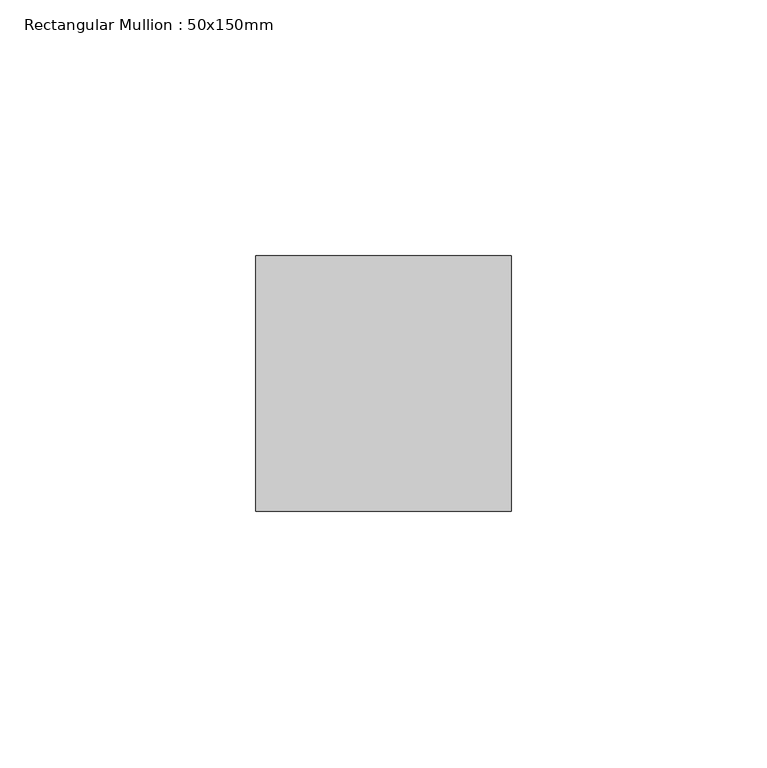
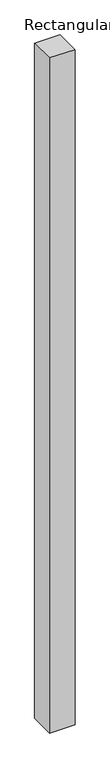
"""IFC4 building model written with IfcOpenShell, lengths in millimetres: member geometry, Rectangular Mullion : 50x150mm."""

from ifc_helpers import new_model, si_unit, frame, origin, place, context, project, spatial, polyline, outline, extrude, source, transform, mapped, element, save


def rectangular_mullion_50x150mm_a32b2a5a(model_context):
    return source(origin(), model_context, "Body", "SweptSolid", [
        extrude(outline(polyline([(0.0, 25.0), (0.0, -25.0), (-50.0, -25.0), (-50.0, 25.0), (0.0, 25.0)])), frame((0.0, 0.0, -1400.0), z_axis=(0.0, 0.0, 1.0), x_axis=(1.0, 0.0, 0.0)), (0.0, 0.0, 1.0), 1400.0),
    ])


if __name__ == "__main__":
    model = new_model("IFC4")
    model_context = context("Model", 3, world=origin())
    ifc_project = project(units=[si_unit("LENGTHUNIT", "METRE", prefix="MILLI")], contexts=[model_context])
    site = spatial("IfcSite", under=ifc_project)
    building = spatial("IfcBuilding", under=site)
    placement = place(None, origin())
    rectangular_mullion_50x150mm_shape = rectangular_mullion_50x150mm_a32b2a5a(model_context)
    element("IfcMember", 1, ObjectType="Rectangular Mullion : 50x150mm", at=placement, inside=building, context=model_context, shape_type="MappedRepresentation", body=[
        mapped(rectangular_mullion_50x150mm_shape, transform((0.0, 0.0, 0.0), x_axis=(1.0, 0.0, 0.0), y_axis=(0.0, 1.0, 0.0), z_axis=(0.0, 0.0, 1.0))),
    ])
    save(model, "model.ifc")
